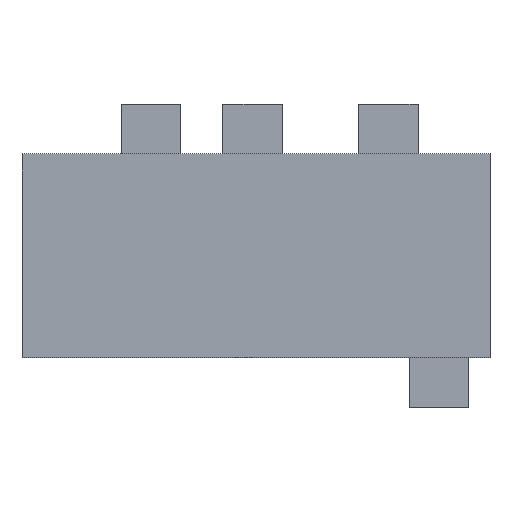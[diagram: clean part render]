
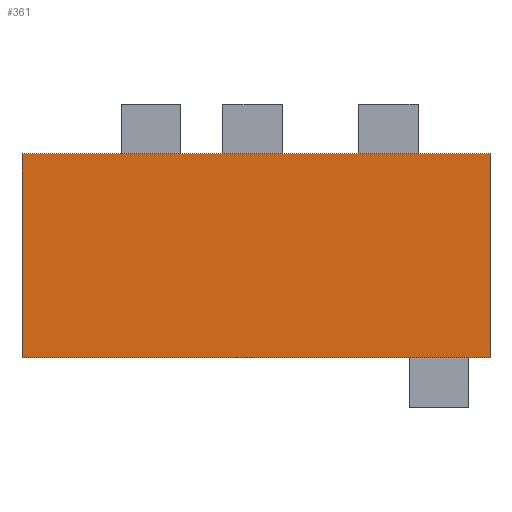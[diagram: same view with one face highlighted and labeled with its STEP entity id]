
A CAD part, top view. The second image highlights one B-rep face of the part: STEP entity #361.
In plain terms, the highlighted planar face has unit normal (0, 0, 1).
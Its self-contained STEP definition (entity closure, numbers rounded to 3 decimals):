
#47 = VERTEX_POINT('',#48);
#48 = CARTESIAN_POINT('',(-6.9,3.25,5.));
#55 = PLANE('',#56);
#56 = AXIS2_PLACEMENT_3D('',#57,#58,#59);
#57 = CARTESIAN_POINT('',(-6.9,3.25,0.));
#58 = DIRECTION('',(0.,1.,0.));
#59 = DIRECTION('',(1.,0.,0.));
#67 = PLANE('',#68);
#68 = AXIS2_PLACEMENT_3D('',#69,#70,#71);
#69 = CARTESIAN_POINT('',(-6.9,-2.75,0.));
#70 = DIRECTION('',(-1.,0.,0.));
#71 = DIRECTION('',(0.,1.,0.));
#79 = EDGE_CURVE('',#47,#80,#82,.T.);
#80 = VERTEX_POINT('',#81);
#81 = CARTESIAN_POINT('',(6.9,3.25,5.));
#82 = SURFACE_CURVE('',#83,(#87,#94),.PCURVE_S1.);
#83 = LINE('',#84,#85);
#84 = CARTESIAN_POINT('',(-6.9,3.25,5.));
#85 = VECTOR('',#86,1.);
#86 = DIRECTION('',(1.,0.,0.));
#87 = PCURVE('',#55,#88);
#88 = DEFINITIONAL_REPRESENTATION('',(#89),#93);
#89 = LINE('',#90,#91);
#90 = CARTESIAN_POINT('',(0.,-5.));
#91 = VECTOR('',#92,1.);
#92 = DIRECTION('',(1.,0.));
#93 = ( GEOMETRIC_REPRESENTATION_CONTEXT(2) 
PARAMETRIC_REPRESENTATION_CONTEXT() REPRESENTATION_CONTEXT('2D SPACE',''
  ) );
#94 = PCURVE('',#95,#100);
#95 = PLANE('',#96);
#96 = AXIS2_PLACEMENT_3D('',#97,#98,#99);
#97 = CARTESIAN_POINT('',(0.,0.25,5.));
#98 = DIRECTION('',(-0.,-0.,-1.));
#99 = DIRECTION('',(-1.,0.,0.));
#100 = DEFINITIONAL_REPRESENTATION('',(#101),#105);
#101 = LINE('',#102,#103);
#102 = CARTESIAN_POINT('',(6.9,3.));
#103 = VECTOR('',#104,1.);
#104 = DIRECTION('',(-1.,0.));
#105 = ( GEOMETRIC_REPRESENTATION_CONTEXT(2) 
PARAMETRIC_REPRESENTATION_CONTEXT() REPRESENTATION_CONTEXT('2D SPACE',''
  ) );
#123 = PLANE('',#124);
#124 = AXIS2_PLACEMENT_3D('',#125,#126,#127);
#125 = CARTESIAN_POINT('',(6.9,3.25,0.));
#126 = DIRECTION('',(1.,0.,-0.));
#127 = DIRECTION('',(0.,-1.,0.));
#165 = EDGE_CURVE('',#80,#166,#168,.T.);
#166 = VERTEX_POINT('',#167);
#167 = CARTESIAN_POINT('',(6.9,-2.75,5.));
#168 = SURFACE_CURVE('',#169,(#173,#180),.PCURVE_S1.);
#169 = LINE('',#170,#171);
#170 = CARTESIAN_POINT('',(6.9,3.25,5.));
#171 = VECTOR('',#172,1.);
#172 = DIRECTION('',(0.,-1.,0.));
#173 = PCURVE('',#123,#174);
#174 = DEFINITIONAL_REPRESENTATION('',(#175),#179);
#175 = LINE('',#176,#177);
#176 = CARTESIAN_POINT('',(0.,-5.));
#177 = VECTOR('',#178,1.);
#178 = DIRECTION('',(1.,0.));
#179 = ( GEOMETRIC_REPRESENTATION_CONTEXT(2) 
PARAMETRIC_REPRESENTATION_CONTEXT() REPRESENTATION_CONTEXT('2D SPACE',''
  ) );
#180 = PCURVE('',#95,#181);
#181 = DEFINITIONAL_REPRESENTATION('',(#182),#186);
#182 = LINE('',#183,#184);
#183 = CARTESIAN_POINT('',(-6.9,3.));
#184 = VECTOR('',#185,1.);
#185 = DIRECTION('',(0.,-1.));
#186 = ( GEOMETRIC_REPRESENTATION_CONTEXT(2) 
PARAMETRIC_REPRESENTATION_CONTEXT() REPRESENTATION_CONTEXT('2D SPACE',''
  ) );
#204 = PLANE('',#205);
#205 = AXIS2_PLACEMENT_3D('',#206,#207,#208);
#206 = CARTESIAN_POINT('',(6.9,-2.75,0.));
#207 = DIRECTION('',(0.,-1.,0.));
#208 = DIRECTION('',(-1.,0.,0.));
#241 = EDGE_CURVE('',#166,#242,#244,.T.);
#242 = VERTEX_POINT('',#243);
#243 = CARTESIAN_POINT('',(-6.9,-2.75,5.));
#244 = SURFACE_CURVE('',#245,(#249,#256),.PCURVE_S1.);
#245 = LINE('',#246,#247);
#246 = CARTESIAN_POINT('',(6.9,-2.75,5.));
#247 = VECTOR('',#248,1.);
#248 = DIRECTION('',(-1.,0.,0.));
#249 = PCURVE('',#204,#250);
#250 = DEFINITIONAL_REPRESENTATION('',(#251),#255);
#251 = LINE('',#252,#253);
#252 = CARTESIAN_POINT('',(0.,-5.));
#253 = VECTOR('',#254,1.);
#254 = DIRECTION('',(1.,0.));
#255 = ( GEOMETRIC_REPRESENTATION_CONTEXT(2) 
PARAMETRIC_REPRESENTATION_CONTEXT() REPRESENTATION_CONTEXT('2D SPACE',''
  ) );
#256 = PCURVE('',#95,#257);
#257 = DEFINITIONAL_REPRESENTATION('',(#258),#262);
#258 = LINE('',#259,#260);
#259 = CARTESIAN_POINT('',(-6.9,-3.));
#260 = VECTOR('',#261,1.);
#261 = DIRECTION('',(1.,0.));
#262 = ( GEOMETRIC_REPRESENTATION_CONTEXT(2) 
PARAMETRIC_REPRESENTATION_CONTEXT() REPRESENTATION_CONTEXT('2D SPACE',''
  ) );
#312 = EDGE_CURVE('',#242,#47,#313,.T.);
#313 = SURFACE_CURVE('',#314,(#318,#325),.PCURVE_S1.);
#314 = LINE('',#315,#316);
#315 = CARTESIAN_POINT('',(-6.9,-2.75,5.));
#316 = VECTOR('',#317,1.);
#317 = DIRECTION('',(0.,1.,0.));
#318 = PCURVE('',#67,#319);
#319 = DEFINITIONAL_REPRESENTATION('',(#320),#324);
#320 = LINE('',#321,#322);
#321 = CARTESIAN_POINT('',(0.,-5.));
#322 = VECTOR('',#323,1.);
#323 = DIRECTION('',(1.,0.));
#324 = ( GEOMETRIC_REPRESENTATION_CONTEXT(2) 
PARAMETRIC_REPRESENTATION_CONTEXT() REPRESENTATION_CONTEXT('2D SPACE',''
  ) );
#325 = PCURVE('',#95,#326);
#326 = DEFINITIONAL_REPRESENTATION('',(#327),#331);
#327 = LINE('',#328,#329);
#328 = CARTESIAN_POINT('',(6.9,-3.));
#329 = VECTOR('',#330,1.);
#330 = DIRECTION('',(0.,1.));
#331 = ( GEOMETRIC_REPRESENTATION_CONTEXT(2) 
PARAMETRIC_REPRESENTATION_CONTEXT() REPRESENTATION_CONTEXT('2D SPACE',''
  ) );
#361 = ADVANCED_FACE('',(#362),#95,.F.);
#362 = FACE_BOUND('',#363,.F.);
#363 = EDGE_LOOP('',(#364,#365,#366,#367));
#364 = ORIENTED_EDGE('',*,*,#79,.T.);
#365 = ORIENTED_EDGE('',*,*,#165,.T.);
#366 = ORIENTED_EDGE('',*,*,#241,.T.);
#367 = ORIENTED_EDGE('',*,*,#312,.T.);
